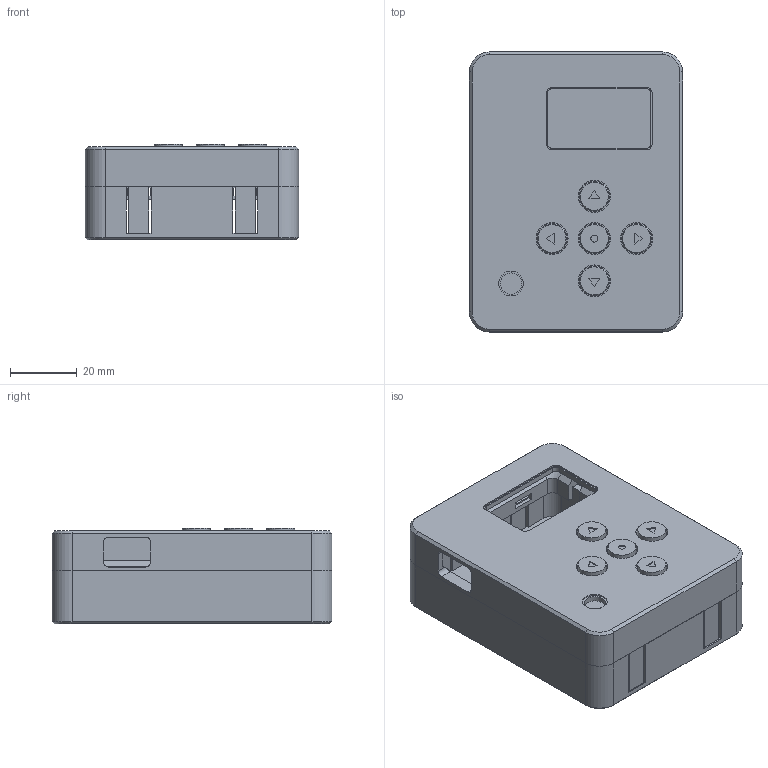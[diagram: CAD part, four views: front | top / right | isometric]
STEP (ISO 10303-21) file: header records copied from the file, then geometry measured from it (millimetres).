
FILE_DESCRIPTION(('Open CASCADE Model'),'2;1');
FILE_NAME('Open CASCADE Shape Model','2026-09-26T12:51:12',('Author'),( 'Open CASCADE'),'Open CASCADE STEP processor 7.8','Open CASCADE 7.8' ,'Unknown');
FILE_SCHEMA(('AUTOMOTIVE_DESIGN { 1 0 10303 214 1 1 1 1 }'));
Length unit declared in the file: millimetre
Products named in the file (8): LoRa_Handheld; base; lid; button_up; button_left; button_center; button_right; button_down
Assembly tree (7 placements, depth 2):
  LoRa_Handheld
    base
    lid
    button_up
    button_left
    button_center
    button_right
    button_down
Bounding box: 64 x 84 x 28.8 mm (x, y, z)
Volume: 38113.1 mm3; surface area: 40065.8 mm2
Topology: 7 solids, 7 shells, 398 faces, 1055 edges, 691 vertices
Faces by surface type: plane 321, cylinder 60, cone 17
Full cylindrical faces by diameter (mm): 2.1 x1, 4.2 x5, 6.4 x1, 7.4 x1, 8.4 x5, 9 x5, 9.6 x5
Entity records: 25900 total; most frequent: CARTESIAN_POINT 5138, DIRECTION 3655, LINE 2318, VECTOR 2318, ORIENTED_EDGE 2110, PCURVE 2110, DEFINITIONAL_REPRESENTATION 2110, EDGE_CURVE 1055
